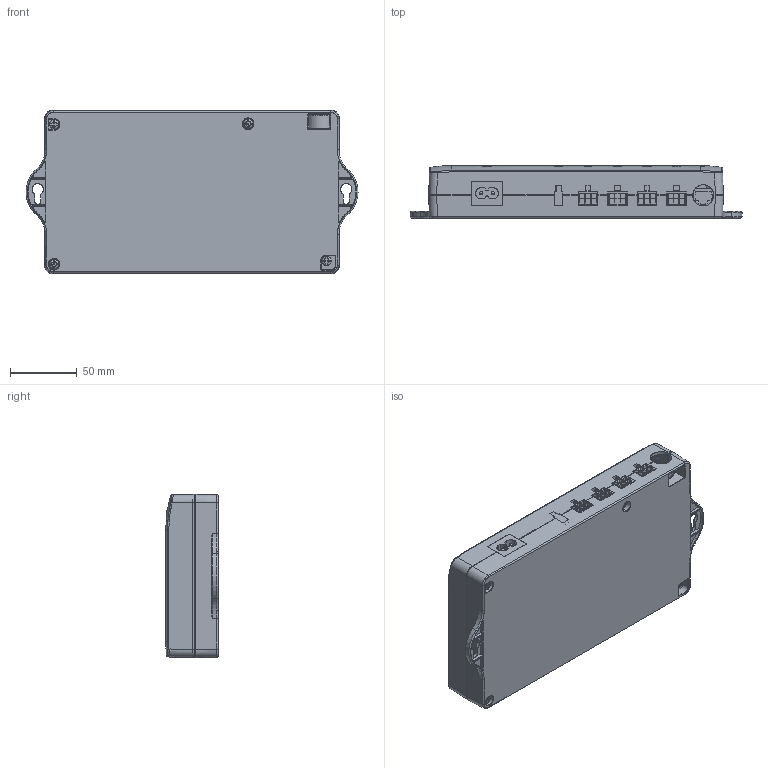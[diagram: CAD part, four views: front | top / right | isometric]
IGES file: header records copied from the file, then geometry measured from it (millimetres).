
Start section: SolidWorks IGES file using analytic representation for surfaces
Global section: file name: C:\Users\lynn\Desktop\CF12.IGS; native system: SolidWorks 2015; preprocessor: SolidWorks 2015; author: lynn; date: 190926.152819; units: millimetre
Bounding box: 248 x 39 x 122 mm (x, y, z)
Surface area: 211240.5 mm2 (no closed solid volume)
Topology: 0 solids, 0 shells, 1755 faces, 15414 edges, 15404 vertices
Faces by surface type: bspline 1250, revolution 505
